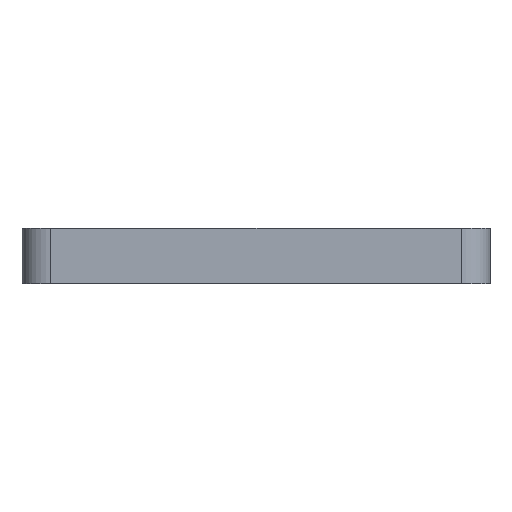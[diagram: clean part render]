
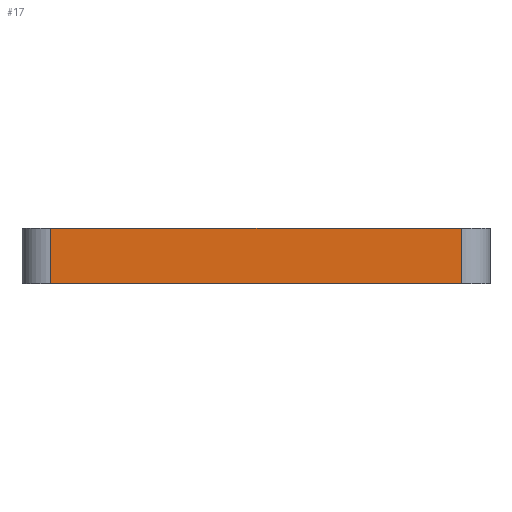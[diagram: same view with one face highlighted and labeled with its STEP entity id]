
A CAD part, left-side view. The second image highlights one B-rep face of the part: STEP entity #17.
In plain terms, the highlighted planar face has unit normal (-1, 0, 0).
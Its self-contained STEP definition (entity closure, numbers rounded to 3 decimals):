
#17 = ADVANCED_FACE('',(#18),#32,.F.);
#18 = FACE_BOUND('',#19,.F.);
#19 = EDGE_LOOP('',(#20,#55,#83,#111));
#20 = ORIENTED_EDGE('',*,*,#21,.F.);
#21 = EDGE_CURVE('',#22,#24,#26,.T.);
#22 = VERTEX_POINT('',#23);
#23 = CARTESIAN_POINT('',(-11.3,-5.4,16.6));
#24 = VERTEX_POINT('',#25);
#25 = CARTESIAN_POINT('',(-11.3,14.4,16.6));
#26 = SURFACE_CURVE('',#27,(#31,#43),.PCURVE_S1.);
#27 = LINE('',#28,#29);
#28 = CARTESIAN_POINT('',(-11.3,-6.8,16.6));
#29 = VECTOR('',#30,1.);
#30 = DIRECTION('',(0.,1.,0.));
#31 = PCURVE('',#32,#37);
#32 = PLANE('',#33);
#33 = AXIS2_PLACEMENT_3D('',#34,#35,#36);
#34 = CARTESIAN_POINT('',(-11.3,-6.8,13.9));
#35 = DIRECTION('',(1.,0.,0.));
#36 = DIRECTION('',(0.,0.,1.));
#37 = DEFINITIONAL_REPRESENTATION('',(#38),#42);
#38 = LINE('',#39,#40);
#39 = CARTESIAN_POINT('',(2.7,0.));
#40 = VECTOR('',#41,1.);
#41 = DIRECTION('',(0.,-1.));
#42 = ( GEOMETRIC_REPRESENTATION_CONTEXT(2) 
PARAMETRIC_REPRESENTATION_CONTEXT() REPRESENTATION_CONTEXT('2D SPACE',''
  ) );
#43 = PCURVE('',#44,#49);
#44 = PLANE('',#45);
#45 = AXIS2_PLACEMENT_3D('',#46,#47,#48);
#46 = CARTESIAN_POINT('',(-11.3,-6.8,16.6));
#47 = DIRECTION('',(0.,0.,1.));
#48 = DIRECTION('',(1.,0.,0.));
#49 = DEFINITIONAL_REPRESENTATION('',(#50),#54);
#50 = LINE('',#51,#52);
#51 = CARTESIAN_POINT('',(0.,0.));
#52 = VECTOR('',#53,1.);
#53 = DIRECTION('',(0.,1.));
#54 = ( GEOMETRIC_REPRESENTATION_CONTEXT(2) 
PARAMETRIC_REPRESENTATION_CONTEXT() REPRESENTATION_CONTEXT('2D SPACE',''
  ) );
#55 = ORIENTED_EDGE('',*,*,#56,.F.);
#56 = EDGE_CURVE('',#57,#22,#59,.T.);
#57 = VERTEX_POINT('',#58);
#58 = CARTESIAN_POINT('',(-11.3,-5.4,13.9));
#59 = SURFACE_CURVE('',#60,(#64,#71),.PCURVE_S1.);
#60 = LINE('',#61,#62);
#61 = CARTESIAN_POINT('',(-11.3,-5.4,13.9));
#62 = VECTOR('',#63,1.);
#63 = DIRECTION('',(0.,0.,1.));
#64 = PCURVE('',#32,#65);
#65 = DEFINITIONAL_REPRESENTATION('',(#66),#70);
#66 = LINE('',#67,#68);
#67 = CARTESIAN_POINT('',(0.,-1.4));
#68 = VECTOR('',#69,1.);
#69 = DIRECTION('',(1.,0.));
#70 = ( GEOMETRIC_REPRESENTATION_CONTEXT(2) 
PARAMETRIC_REPRESENTATION_CONTEXT() REPRESENTATION_CONTEXT('2D SPACE',''
  ) );
#71 = PCURVE('',#72,#77);
#72 = CYLINDRICAL_SURFACE('',#73,1.4);
#73 = AXIS2_PLACEMENT_3D('',#74,#75,#76);
#74 = CARTESIAN_POINT('',(-9.9,-5.4,13.9));
#75 = DIRECTION('',(0.,0.,1.));
#76 = DIRECTION('',(-1.,-0.,0.));
#77 = DEFINITIONAL_REPRESENTATION('',(#78),#82);
#78 = LINE('',#79,#80);
#79 = CARTESIAN_POINT('',(0.,0.));
#80 = VECTOR('',#81,1.);
#81 = DIRECTION('',(0.,1.));
#82 = ( GEOMETRIC_REPRESENTATION_CONTEXT(2) 
PARAMETRIC_REPRESENTATION_CONTEXT() REPRESENTATION_CONTEXT('2D SPACE',''
  ) );
#83 = ORIENTED_EDGE('',*,*,#84,.T.);
#84 = EDGE_CURVE('',#57,#85,#87,.T.);
#85 = VERTEX_POINT('',#86);
#86 = CARTESIAN_POINT('',(-11.3,14.4,13.9));
#87 = SURFACE_CURVE('',#88,(#92,#99),.PCURVE_S1.);
#88 = LINE('',#89,#90);
#89 = CARTESIAN_POINT('',(-11.3,-6.8,13.9));
#90 = VECTOR('',#91,1.);
#91 = DIRECTION('',(0.,1.,0.));
#92 = PCURVE('',#32,#93);
#93 = DEFINITIONAL_REPRESENTATION('',(#94),#98);
#94 = LINE('',#95,#96);
#95 = CARTESIAN_POINT('',(0.,0.));
#96 = VECTOR('',#97,1.);
#97 = DIRECTION('',(0.,-1.));
#98 = ( GEOMETRIC_REPRESENTATION_CONTEXT(2) 
PARAMETRIC_REPRESENTATION_CONTEXT() REPRESENTATION_CONTEXT('2D SPACE',''
  ) );
#99 = PCURVE('',#100,#105);
#100 = PLANE('',#101);
#101 = AXIS2_PLACEMENT_3D('',#102,#103,#104);
#102 = CARTESIAN_POINT('',(-11.3,-6.8,13.9));
#103 = DIRECTION('',(0.,0.,1.));
#104 = DIRECTION('',(1.,0.,0.));
#105 = DEFINITIONAL_REPRESENTATION('',(#106),#110);
#106 = LINE('',#107,#108);
#107 = CARTESIAN_POINT('',(0.,0.));
#108 = VECTOR('',#109,1.);
#109 = DIRECTION('',(0.,1.));
#110 = ( GEOMETRIC_REPRESENTATION_CONTEXT(2) 
PARAMETRIC_REPRESENTATION_CONTEXT() REPRESENTATION_CONTEXT('2D SPACE',''
  ) );
#111 = ORIENTED_EDGE('',*,*,#112,.T.);
#112 = EDGE_CURVE('',#85,#24,#113,.T.);
#113 = SURFACE_CURVE('',#114,(#118,#125),.PCURVE_S1.);
#114 = LINE('',#115,#116);
#115 = CARTESIAN_POINT('',(-11.3,14.4,13.9));
#116 = VECTOR('',#117,1.);
#117 = DIRECTION('',(0.,0.,1.));
#118 = PCURVE('',#32,#119);
#119 = DEFINITIONAL_REPRESENTATION('',(#120),#124);
#120 = LINE('',#121,#122);
#121 = CARTESIAN_POINT('',(0.,-21.2));
#122 = VECTOR('',#123,1.);
#123 = DIRECTION('',(1.,0.));
#124 = ( GEOMETRIC_REPRESENTATION_CONTEXT(2) 
PARAMETRIC_REPRESENTATION_CONTEXT() REPRESENTATION_CONTEXT('2D SPACE',''
  ) );
#125 = PCURVE('',#126,#131);
#126 = CYLINDRICAL_SURFACE('',#127,1.4);
#127 = AXIS2_PLACEMENT_3D('',#128,#129,#130);
#128 = CARTESIAN_POINT('',(-9.9,14.4,13.9));
#129 = DIRECTION('',(0.,0.,1.));
#130 = DIRECTION('',(-1.,-0.,0.));
#131 = DEFINITIONAL_REPRESENTATION('',(#132),#136);
#132 = LINE('',#133,#134);
#133 = CARTESIAN_POINT('',(-0.,0.));
#134 = VECTOR('',#135,1.);
#135 = DIRECTION('',(-0.,1.));
#136 = ( GEOMETRIC_REPRESENTATION_CONTEXT(2) 
PARAMETRIC_REPRESENTATION_CONTEXT() REPRESENTATION_CONTEXT('2D SPACE',''
  ) );
